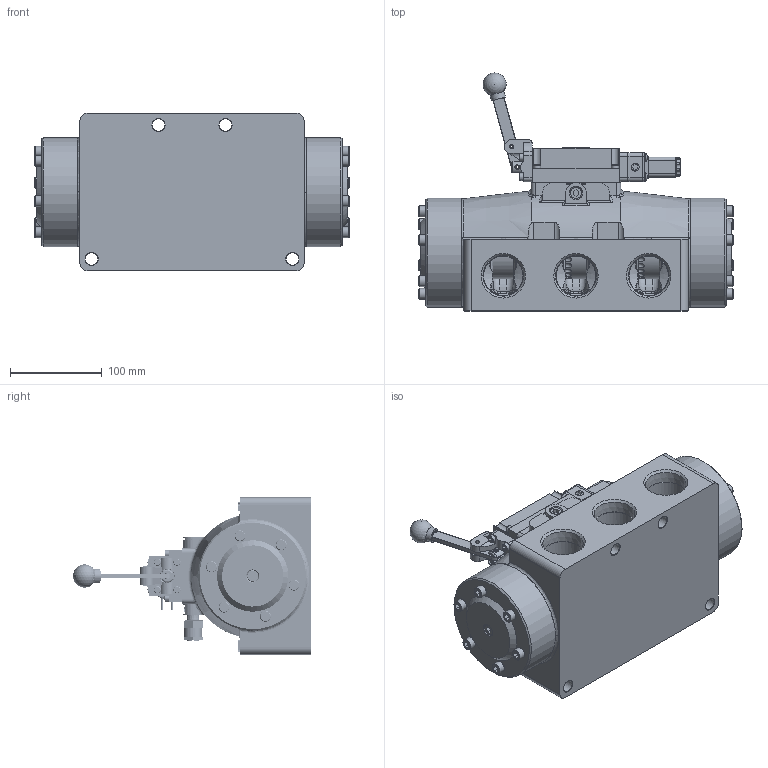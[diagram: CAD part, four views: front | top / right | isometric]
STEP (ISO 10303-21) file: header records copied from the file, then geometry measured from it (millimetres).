
FILE_DESCRIPTION(/* description */ (''),/* implementation_level */ '2;1');
FILE_NAME(/* name */ 'D:\Engineering\Product\valves\Assembly\Standard\ESAH\stp\ESAH12MO.stp',/* time_stamp */ '2021-04-13T16:09:31-04:00',/* author */ ('RMcKenna'),/* organization */ (''),/* preprocessor_version */ 'ST-DEVELOPER v18.1',/* originating_system */ 'Autodesk Inventor 2021',/* authorisation */ '');
FILE_SCHEMA (('AUTOMOTIVE_DESIGN { 1 0 10303 214 3 1 1 }'));
Products named in the file (1): Part49
Bounding box: 343.84 x 259.53 x 171.45 mm (x, y, z)
Volume: 4471693.5 mm3; surface area: 570451.3 mm2
Topology: 2 solids, 65 shells, 3232 faces, 7899 edges, 5058 vertices
Faces by surface type: plane 1391, cylinder 748, cone 510, torus 319, bspline 255, sphere 9
Full cylindrical faces by diameter (mm): 1.3 x1, 1.397 x1, 1.5 x2, 2.032 x4, 2.07 x2, 2.261 x2, 2.35 x4, 2.5 x1, 2.54 x2, 2.778 x2, 2.8 x1, 3 x4, 3.048 x2, 3.175 x9, 3.4 x1, 3.683 x14, 3.861 x2, 3.988 x1, 4.191 x2, 4.305 x1, 4.366 x2, 4.369 x3, 4.75 x2, 4.762 x2, 4.763 x7, 4.826 x12, 4.978 x4, 5.055 x1, 5.15 x4, 5.156 x8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
Entity records: 110759 total; most frequent: CARTESIAN_POINT 32594, ORIENTED_EDGE 15694, DIRECTION 15282, EDGE_CURVE 7847, AXIS2_PLACEMENT_3D 5777, VERTEX_POINT 5058, LINE 3728, VECTOR 3728
